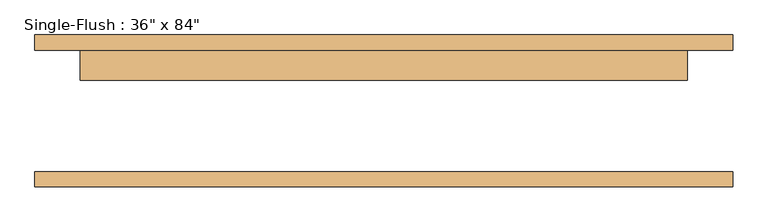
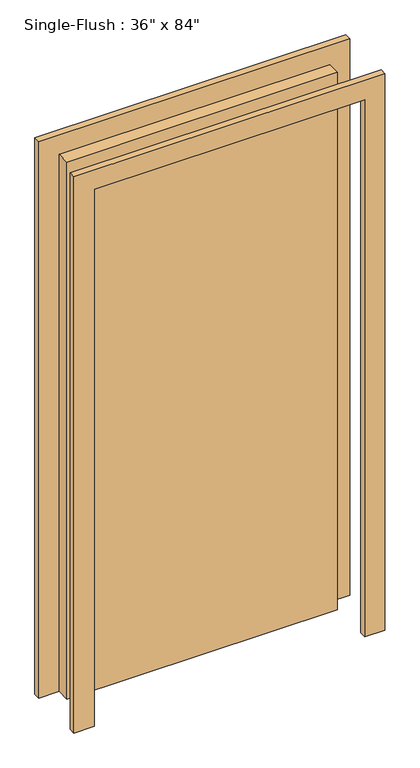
"""IFC4 building model written with IfcOpenShell, lengths in millimetres: door geometry."""

from ifc_helpers import new_model, si_unit, frame, origin, origin_with_axes, place, context, project, spatial, polyline, outline, extrude, source, transform, mapped, element, save


def door_87287b79(model_context):
    return source(origin(), model_context, "Body", "SweptSolid", [
        extrude(outline(polyline([(2209.8, -584.2), (0.0, -584.2), (0.0, -508.0), (2133.6, -508.0), (2133.6, 508.0), (0.0, 508.0), (0.0, 584.2), (2209.8, 584.2), (2209.8, -584.2)])), frame((0.0, 101.6, 0.0), z_axis=(0.0, 1.0, 0.0), x_axis=(0.0, 0.0, 1.0)), (0.0, 0.0, 1.0), 25.4),
        extrude(outline(polyline([(2209.8, 584.2), (2209.8, -584.2), (0.0, -584.2), (0.0, -508.0), (2133.6, -508.0), (2133.6, 508.0), (0.0, 508.0), (0.0, 584.2), (2209.8, 584.2)])), frame((0.0, -127.0, 0.0), z_axis=(0.0, 1.0, 0.0), x_axis=(0.0, 0.0, 1.0)), (0.0, 0.0, 1.0), 25.4),
        extrude(outline(polyline([(508.0, 50.8), (-508.0, 50.8), (-508.0, 101.6), (508.0, 101.6), (508.0, 50.8)])), origin_with_axes(), (0.0, 0.0, 1.0), 2133.6),
    ])


if __name__ == "__main__":
    model = new_model("IFC4")
    model_context = context("Model", 3, world=origin())
    ifc_project = project(units=[si_unit("LENGTHUNIT", "METRE", prefix="MILLI")], contexts=[model_context])
    site = spatial("IfcSite", under=ifc_project)
    building = spatial("IfcBuilding", under=site)
    placement = place(None, origin())
    door_shape = door_87287b79(model_context)
    element("IfcDoor", 1, ObjectType="Single-Flush : 36\" x 84\"", at=placement, inside=building, context=model_context, shape_type="MappedRepresentation", body=[
        mapped(door_shape, transform((0.0, 0.0, 0.0), x_axis=(1.0, 0.0, 0.0), y_axis=(0.0, 1.0, 0.0), z_axis=(0.0, 0.0, 1.0))),
    ])
    save(model, "model.ifc")
